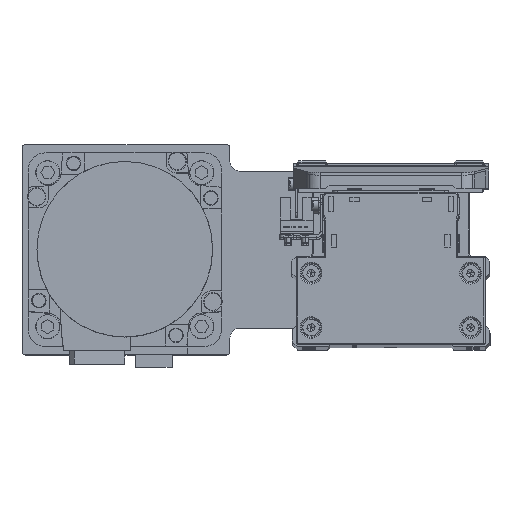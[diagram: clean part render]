
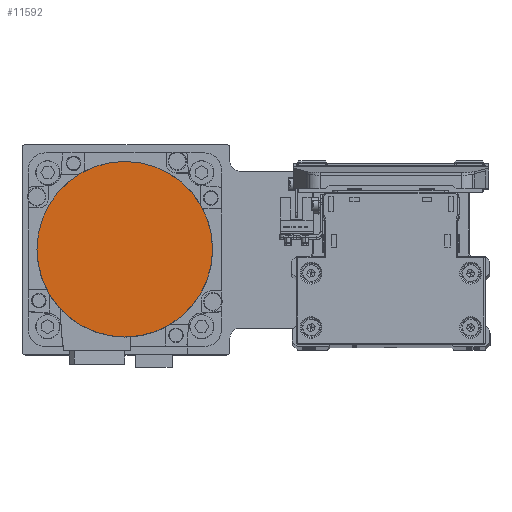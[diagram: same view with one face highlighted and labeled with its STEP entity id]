
A CAD part, top view. The second image highlights one B-rep face of the part: STEP entity #11592.
In plain terms, the highlighted planar face has unit normal (0, 0, 1) as drawn and (0, 0, -1) by its records, which use the part's own axes.
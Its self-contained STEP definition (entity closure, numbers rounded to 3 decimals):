
#977 = CIRCLE ( 'NONE', #23411, 36.3 ) ;
#2187 = FACE_OUTER_BOUND ( 'NONE', #3487, .T. ) ;
#2560 = VERTEX_POINT ( 'NONE', #18144 ) ;
#3487 = EDGE_LOOP ( 'NONE', ( #15119, #32062 ) ) ;
#4586 = DIRECTION ( 'NONE',  ( 0., 0., 1. ) ) ;
#6638 = DIRECTION ( 'NONE',  ( 0., 0., 1. ) ) ;
#9092 = EDGE_CURVE ( 'NONE', #13092, #2560, #977, .T. ) ;
#10799 = CIRCLE ( 'NONE', #38343, 36.3 ) ;
#11399 = DIRECTION ( 'NONE',  ( 1., 0., 0. ) ) ;
#11592 = ADVANCED_FACE ( 'NONE', ( #2187 ), #14413, .F. ) ;
#13092 = VERTEX_POINT ( 'NONE', #21597 ) ;
#13785 = EDGE_CURVE ( 'NONE', #2560, #13092, #10799, .T. ) ;
#14413 = PLANE ( 'NONE',  #33757 ) ;
#15119 = ORIENTED_EDGE ( 'NONE', *, *, #13785, .F. ) ;
#16804 = DIRECTION ( 'NONE',  ( 0., 1., 0. ) ) ;
#18144 = CARTESIAN_POINT ( 'NONE',  ( 0., 36.3, -122.2 ) ) ;
#18868 = DIRECTION ( 'NONE',  ( 0., -1., 0. ) ) ;
#21597 = CARTESIAN_POINT ( 'NONE',  ( 0., -36.3, -122.2 ) ) ;
#23411 = AXIS2_PLACEMENT_3D ( 'NONE', #34102, #6638, #18868 ) ;
#26636 = CARTESIAN_POINT ( 'NONE',  ( 0., 0., -122.2 ) ) ;
#32041 = CARTESIAN_POINT ( 'NONE',  ( 0., 0., -122.2 ) ) ;
#32062 = ORIENTED_EDGE ( 'NONE', *, *, #9092, .F. ) ;
#33757 = AXIS2_PLACEMENT_3D ( 'NONE', #26636, #38874, #11399 ) ;
#34102 = CARTESIAN_POINT ( 'NONE',  ( 0., 0., -122.2 ) ) ;
#38343 = AXIS2_PLACEMENT_3D ( 'NONE', #32041, #4586, #16804 ) ;
#38874 = DIRECTION ( 'NONE',  ( 0., 0., 1. ) ) ;
